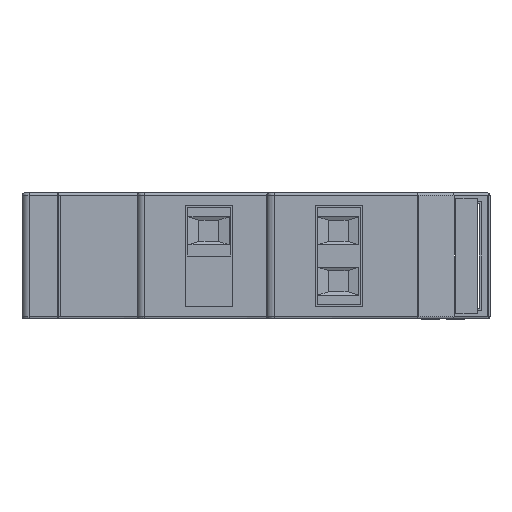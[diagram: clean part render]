
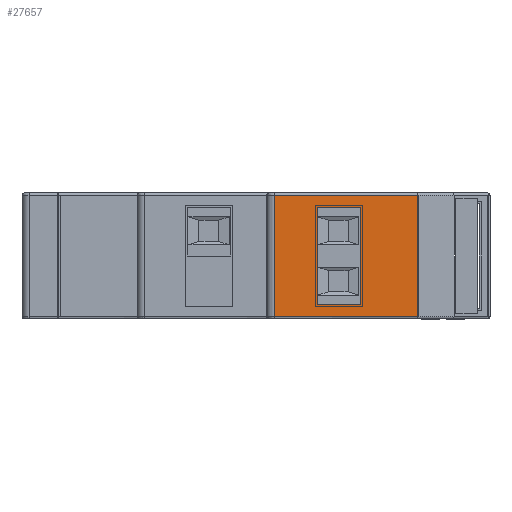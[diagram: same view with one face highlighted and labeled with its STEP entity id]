
A CAD part, left-side view. The second image highlights one B-rep face of the part: STEP entity #27657.
In plain terms, the highlighted planar face has unit normal (-1, 0, 0).
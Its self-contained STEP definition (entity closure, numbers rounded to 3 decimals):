
#3971 = EDGE_CURVE ( 'NONE', #26250, #12640, #5270, .T. ) ;
#3975 = EDGE_CURVE ( 'NONE', #12640, #12504, #5283, .T. ) ;
#3977 = EDGE_CURVE ( 'NONE', #12610, #26210, #5289, .T. ) ;
#3979 = EDGE_CURVE ( 'NONE', #36155, #12610, #5284, .T. ) ;
#3981 = EDGE_CURVE ( 'NONE', #12673, #36155, #5290, .T. ) ;
#3983 = EDGE_CURVE ( 'NONE', #26210, #12673, #5294, .T. ) ;
#5270 = LINE ( 'NONE', #5271, #14677 ) ;
#5271 = CARTESIAN_POINT ( 'NONE',  ( 0., 30., 17.5 ) ) ;
#5272 = DIRECTION ( 'NONE',  ( 0., 0., 1. ) ) ;
#5283 = LINE ( 'NONE', #5285, #14671 ) ;
#5284 = LINE ( 'NONE', #5296, #14669 ) ;
#5285 = CARTESIAN_POINT ( 'NONE',  ( 0., 0., 17.2 ) ) ;
#5286 = DIRECTION ( 'NONE',  ( 0., -1., 0. ) ) ;
#5289 = LINE ( 'NONE', #5291, #14670 ) ;
#5290 = LINE ( 'NONE', #5302, #14668 ) ;
#5291 = CARTESIAN_POINT ( 'NONE',  ( 0., 24., 17.5 ) ) ;
#5292 = DIRECTION ( 'NONE',  ( 0., 0., -1. ) ) ;
#5294 = LINE ( 'NONE', #5308, #14666 ) ;
#5296 = CARTESIAN_POINT ( 'NONE',  ( 0., 0., 15.5 ) ) ;
#5297 = DIRECTION ( 'NONE',  ( 0., 1., 0. ) ) ;
#5302 = CARTESIAN_POINT ( 'NONE',  ( 0., 18., 17.5 ) ) ;
#5303 = DIRECTION ( 'NONE',  ( 0., 0., 1. ) ) ;
#5308 = CARTESIAN_POINT ( 'NONE',  ( 0., 0., 2. ) ) ;
#5309 = DIRECTION ( 'NONE',  ( 0., -1., 0. ) ) ;
#6693 = PLANE ( 'NONE',  #6992 ) ;
#6696 = FACE_OUTER_BOUND ( 'NONE', #22184, .T. ) ;
#6698 = FACE_BOUND ( 'NONE', #22228, .T. ) ;
#6706 = CARTESIAN_POINT ( 'NONE',  ( 0., 0., 17.5 ) ) ;
#6707 = DIRECTION ( 'NONE',  ( 1., 0., 0. ) ) ;
#6708 = DIRECTION ( 'NONE',  ( 0., 0., -1. ) ) ;
#6992 = AXIS2_PLACEMENT_3D ( 'NONE', #6706, #6707, #6708 ) ;
#12305 = VERTEX_POINT ( 'NONE', #37100 ) ;
#12504 = VERTEX_POINT ( 'NONE', #37368 ) ;
#12610 = VERTEX_POINT ( 'NONE', #37510 ) ;
#12640 = VERTEX_POINT ( 'NONE', #37552 ) ;
#12673 = VERTEX_POINT ( 'NONE', #37595 ) ;
#13182 = VECTOR ( 'NONE', #24308, 1000. ) ;
#14666 = VECTOR ( 'NONE', #5309, 1000. ) ;
#14668 = VECTOR ( 'NONE', #5303, 1000. ) ;
#14669 = VECTOR ( 'NONE', #5297, 1000. ) ;
#14670 = VECTOR ( 'NONE', #5292, 1000. ) ;
#14671 = VECTOR ( 'NONE', #5286, 1000. ) ;
#14677 = VECTOR ( 'NONE', #5272, 1000. ) ;
#19077 = VECTOR ( 'NONE', #24046, 1000. ) ;
#19131 = EDGE_CURVE ( 'NONE', #12504, #12305, #24045, .T. ) ;
#19287 = EDGE_CURVE ( 'NONE', #12305, #26250, #24302, .T. ) ;
#22184 = EDGE_LOOP ( 'NONE', ( #29791, #29792, #29793, #29794 ) ) ;
#22228 = EDGE_LOOP ( 'NONE', ( #27557, #27548, #27539, #27534 ) ) ;
#22978 = CARTESIAN_POINT ( 'NONE',  ( 0., 24., 2. ) ) ;
#23018 = CARTESIAN_POINT ( 'NONE',  ( 0., 30., 0.3 ) ) ;
#24044 = CARTESIAN_POINT ( 'NONE',  ( 0., 10., 17.5 ) ) ;
#24045 = LINE ( 'NONE', #24044, #19077 ) ;
#24046 = DIRECTION ( 'NONE',  ( 0., 0., -1. ) ) ;
#24302 = LINE ( 'NONE', #24306, #13182 ) ;
#24306 = CARTESIAN_POINT ( 'NONE',  ( 0., 0., 0.3 ) ) ;
#24308 = DIRECTION ( 'NONE',  ( 0., 1., 0. ) ) ;
#26210 = VERTEX_POINT ( 'NONE', #22978 ) ;
#26250 = VERTEX_POINT ( 'NONE', #23018 ) ;
#27534 = ORIENTED_EDGE ( 'NONE', *, *, #3977, .F. ) ;
#27539 = ORIENTED_EDGE ( 'NONE', *, *, #3983, .F. ) ;
#27548 = ORIENTED_EDGE ( 'NONE', *, *, #3981, .F. ) ;
#27557 = ORIENTED_EDGE ( 'NONE', *, *, #3979, .F. ) ;
#27657 = ADVANCED_FACE ( 'NONE', ( #6696, #6698 ), #6693, .F. ) ;
#29791 = ORIENTED_EDGE ( 'NONE', *, *, #19287, .F. ) ;
#29792 = ORIENTED_EDGE ( 'NONE', *, *, #19131, .F. ) ;
#29793 = ORIENTED_EDGE ( 'NONE', *, *, #3975, .F. ) ;
#29794 = ORIENTED_EDGE ( 'NONE', *, *, #3971, .F. ) ;
#33261 = CARTESIAN_POINT ( 'NONE',  ( 0., 18., 15.5 ) ) ;
#36155 = VERTEX_POINT ( 'NONE', #33261 ) ;
#37100 = CARTESIAN_POINT ( 'NONE',  ( 0., 10., 0.3 ) ) ;
#37368 = CARTESIAN_POINT ( 'NONE',  ( 0., 10., 17.2 ) ) ;
#37510 = CARTESIAN_POINT ( 'NONE',  ( 0., 24., 15.5 ) ) ;
#37552 = CARTESIAN_POINT ( 'NONE',  ( 0., 30., 17.2 ) ) ;
#37595 = CARTESIAN_POINT ( 'NONE',  ( 0., 18., 2. ) ) ;
